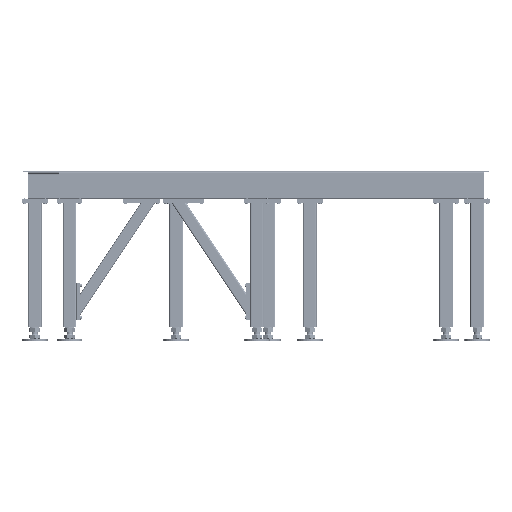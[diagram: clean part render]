
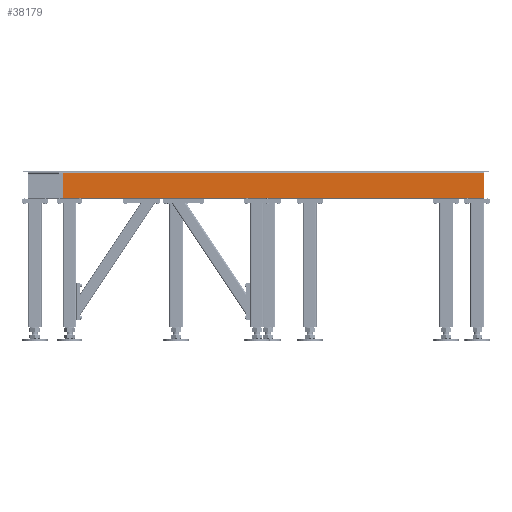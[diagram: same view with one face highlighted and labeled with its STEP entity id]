
A CAD part, front view. The second image highlights one B-rep face of the part: STEP entity #38179.
In plain terms, the highlighted planar face has unit normal (0, -1, 0) as drawn and (0, 1, 0) by its records, which use the part's own axes.
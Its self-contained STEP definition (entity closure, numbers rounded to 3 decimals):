
#454 = VECTOR ( 'NONE', #109083, 1000. ) ;
#6067 = EDGE_LOOP ( 'NONE', ( #43558, #78582, #25324, #22420 ) ) ;
#13382 = LINE ( 'NONE', #51514, #67745 ) ;
#15016 = LINE ( 'NONE', #132617, #454 ) ;
#15817 = DIRECTION ( 'NONE',  ( 0., -1., 0. ) ) ;
#18285 = DIRECTION ( 'NONE',  ( 0., 0., -1. ) ) ;
#19049 = VERTEX_POINT ( 'NONE', #122667 ) ;
#22420 = ORIENTED_EDGE ( 'NONE', *, *, #27586, .F. ) ;
#23100 = VECTOR ( 'NONE', #18285, 1000. ) ;
#24042 = CARTESIAN_POINT ( 'NONE',  ( -63313.35, 77127.931, -74. ) ) ;
#25065 = CARTESIAN_POINT ( 'NONE',  ( -60840.35, 77127.931, 74. ) ) ;
#25324 = ORIENTED_EDGE ( 'NONE', *, *, #130106, .T. ) ;
#27586 = EDGE_CURVE ( 'NONE', #166206, #119954, #15016, .T. ) ;
#28134 = EDGE_CURVE ( 'NONE', #80522, #19049, #96352, .T. ) ;
#38179 = ADVANCED_FACE ( 'NONE', ( #62771 ), #123063, .F. ) ;
#39835 = AXIS2_PLACEMENT_3D ( 'NONE', #96030, #15817, #134847 ) ;
#43558 = ORIENTED_EDGE ( 'NONE', *, *, #102428, .F. ) ;
#51514 = CARTESIAN_POINT ( 'NONE',  ( -61000.35, 77127.931, -74. ) ) ;
#62771 = FACE_OUTER_BOUND ( 'NONE', #6067, .T. ) ;
#67745 = VECTOR ( 'NONE', #103667, 1000. ) ;
#78582 = ORIENTED_EDGE ( 'NONE', *, *, #28134, .T. ) ;
#80522 = VERTEX_POINT ( 'NONE', #25065 ) ;
#86190 = CARTESIAN_POINT ( 'NONE',  ( -60840.35, 77127.931, -74. ) ) ;
#91085 = CARTESIAN_POINT ( 'NONE',  ( -63313.35, 77127.931, 74. ) ) ;
#96030 = CARTESIAN_POINT ( 'NONE',  ( -61000.35, 77127.931, -74. ) ) ;
#96352 = LINE ( 'NONE', #86190, #23100 ) ;
#102428 = EDGE_CURVE ( 'NONE', #80522, #166206, #145851, .T. ) ;
#103667 = DIRECTION ( 'NONE',  ( -1., 0., 0. ) ) ;
#109083 = DIRECTION ( 'NONE',  ( 0., 0., -1. ) ) ;
#119954 = VERTEX_POINT ( 'NONE', #24042 ) ;
#122667 = CARTESIAN_POINT ( 'NONE',  ( -60840.35, 77127.931, -74. ) ) ;
#123063 = PLANE ( 'NONE',  #39835 ) ;
#130106 = EDGE_CURVE ( 'NONE', #19049, #119954, #13382, .T. ) ;
#132617 = CARTESIAN_POINT ( 'NONE',  ( -63313.35, 77127.931, -74. ) ) ;
#134847 = DIRECTION ( 'NONE',  ( 0., 0., -1. ) ) ;
#143468 = CARTESIAN_POINT ( 'NONE',  ( -61000.35, 77127.931, 74. ) ) ;
#143797 = VECTOR ( 'NONE', #170413, 1000. ) ;
#145851 = LINE ( 'NONE', #143468, #143797 ) ;
#166206 = VERTEX_POINT ( 'NONE', #91085 ) ;
#170413 = DIRECTION ( 'NONE',  ( -1., 0., 0. ) ) ;
